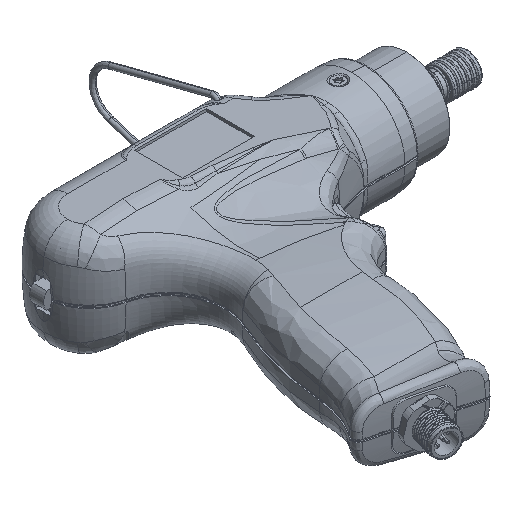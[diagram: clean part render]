
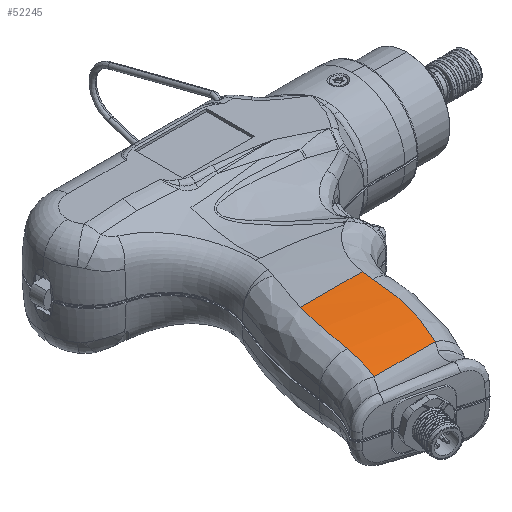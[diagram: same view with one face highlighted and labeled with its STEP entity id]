
A CAD part, isometric view. The second image highlights one B-rep face of the part: STEP entity #52245.
In plain terms, the highlighted cylindrical face has radius 275.277 mm (diameter 550.554 mm), a partial arc.
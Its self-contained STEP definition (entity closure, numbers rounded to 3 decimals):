
#1188 = CARTESIAN_POINT ( 'NONE',  ( -35.995, -49.289, 25.533 ) ) ;
#1485 = CARTESIAN_POINT ( 'NONE',  ( -6.581, -33.228, 26.456 ) ) ;
#6213 = CARTESIAN_POINT ( 'NONE',  ( -7.151, -40.15, 26.172 ) ) ;
#8994 = CARTESIAN_POINT ( 'NONE',  ( -34.285, -36.404, 26.346 ) ) ;
#10917 = CARTESIAN_POINT ( 'NONE',  ( -10.581, -55.8, 24.891 ) ) ;
#17096 = CARTESIAN_POINT ( 'NONE',  ( -6.514, -28.726, 26.546 ) ) ;
#17422 = CARTESIAN_POINT ( 'NONE',  ( -37.594, -58.795, 24.553 ) ) ;
#19787 = B_SPLINE_CURVE_WITH_KNOTS ( 'NONE', 3,
 ( #171097, #131223, #111111, #91132, #71035, #50938, #30889, #10917, #186464, #166440, #146474, #126550, #106396, #86408, #66277, #46248, #26152, #6213, #181749, #161701, #141762, #121804, #101636, #81637, #61535, #41466, #21458, #1485, #176975, #157016 ),
 .UNSPECIFIED., .F., .F.,
 ( 4, 2, 1, 2, 2, 1, 1, 2, 2, 1, 1, 1, 2, 2, 1, 1, 2, 2, 4 ),
 ( 0., 0.125, 0.188, 0.219, 0.25, 0.375, 0.438, 0.469, 0.5, 0.625, 0.688, 0.719, 0.734, 0.75, 0.813, 0.844, 0.859, 0.875, 1. ),
 .UNSPECIFIED. ) ;
#21458 = CARTESIAN_POINT ( 'NONE',  ( -6.67, -34.812, 26.404 ) ) ;
#26152 = CARTESIAN_POINT ( 'NONE',  ( -7.306, -41.382, 26.105 ) ) ;
#28997 = CARTESIAN_POINT ( 'NONE',  ( -34.125, -35.542, 26.379 ) ) ;
#30889 = CARTESIAN_POINT ( 'NONE',  ( -10.691, -56.138, 24.854 ) ) ;
#37081 = CARTESIAN_POINT ( 'NONE',  ( -6.525, -30.34, 26.518 ) ) ;
#37419 = CARTESIAN_POINT ( 'NONE',  ( -37.044, -56.307, 24.835 ) ) ;
#41466 = CARTESIAN_POINT ( 'NONE',  ( -6.681, -34.992, 26.398 ) ) ;
#46248 = CARTESIAN_POINT ( 'NONE',  ( -7.662, -43.837, 25.957 ) ) ;
#49009 = CARTESIAN_POINT ( 'NONE',  ( -33.79, -33.82, 26.439 ) ) ;
#50938 = CARTESIAN_POINT ( 'NONE',  ( -10.912, -56.808, 24.778 ) ) ;
#51364 = VERTEX_POINT ( 'NONE', #142012 ) ;
#52245 = ADVANCED_FACE ( 'NONE', ( #72460 ), #143148, .T. ) ;
#52287 = ORIENTED_EDGE ( 'NONE', *, *, #162142, .T. ) ;
#54190 = ORIENTED_EDGE ( 'NONE', *, *, #123239, .T. ) ;
#57474 = CARTESIAN_POINT ( 'NONE',  ( -37.012, -56.158, 24.851 ) ) ;
#61535 = CARTESIAN_POINT ( 'NONE',  ( -6.704, -35.349, 26.385 ) ) ;
#66148 = VERTEX_POINT ( 'NONE', #1188 ) ;
#66277 = CARTESIAN_POINT ( 'NONE',  ( -8.046, -45.926, 25.807 ) ) ;
#69097 = CARTESIAN_POINT ( 'NONE',  ( -33.478, -32.349, 26.478 ) ) ;
#71035 = CARTESIAN_POINT ( 'NONE',  ( -11.25, -57.81, 24.663 ) ) ;
#72460 = FACE_OUTER_BOUND ( 'NONE', #171510, .T. ) ;
#72975 = EDGE_CURVE ( 'NONE', #98191, #51364, #165753, .T. ) ;
#77583 = CARTESIAN_POINT ( 'NONE',  ( -36.949, -55.862, 24.884 ) ) ;
#81637 = CARTESIAN_POINT ( 'NONE',  ( -6.739, -35.883, 26.366 ) ) ;
#84457 = CARTESIAN_POINT ( 'NONE',  ( -35.995, -49.289, 25.533 ) ) ;
#85555 = VERTEX_POINT ( 'NONE', #137317 ) ;
#86408 = CARTESIAN_POINT ( 'NONE',  ( -8.409, -47.659, 25.67 ) ) ;
#89238 = CARTESIAN_POINT ( 'NONE',  ( -32.821, -29.415, 26.54 ) ) ;
#91132 = CARTESIAN_POINT ( 'NONE',  ( -11.607, -58.804, 24.543 ) ) ;
#97613 = CARTESIAN_POINT ( 'NONE',  ( -36.857, -55.418, 24.933 ) ) ;
#98191 = VERTEX_POINT ( 'NONE', #148333 ) ;
#99303 = EDGE_CURVE ( 'NONE', #85555, #66148, #103700, .T. ) ;
#101636 = CARTESIAN_POINT ( 'NONE',  ( -6.833, -37.132, 26.317 ) ) ;
#103700 = B_SPLINE_CURVE_WITH_KNOTS ( 'NONE', 3,
 ( #149279, #109206, #89238, #69097, #49009, #28997, #8994, #184537, #164546, #144561, #124617, #104470, #84457 ),
 .UNSPECIFIED., .F., .F.,
 ( 4, 2, 1, 1, 1, 2, 2, 4 ),
 ( 0.437, 0.578, 0.648, 0.684, 0.701, 0.71, 0.719, 1. ),
 .UNSPECIFIED. ) ;
#104470 = CARTESIAN_POINT ( 'NONE',  ( -35.663, -45.266, 25.882 ) ) ;
#106396 = CARTESIAN_POINT ( 'NONE',  ( -8.483, -48.001, 25.642 ) ) ;
#107556 = ORIENTED_EDGE ( 'NONE', *, *, #119188, .T. ) ;
#109206 = CARTESIAN_POINT ( 'NONE',  ( -32.337, -27.468, 26.56 ) ) ;
#109529 = B_SPLINE_CURVE_WITH_KNOTS ( 'NONE', 3,
 ( #177664, #157663, #137735, #117701, #97613, #77583, #57474, #37419, #17422, #192978, #172921 ),
 .UNSPECIFIED., .F., .F.,
 ( 4, 1, 1, 1, 2, 2, 4 ),
 ( 0., 0.25, 0.375, 0.437, 0.469, 0.5, 1. ),
 .UNSPECIFIED. ) ;
#111111 = CARTESIAN_POINT ( 'NONE',  ( -12.346, -60.781, 24.297 ) ) ;
#112064 = ORIENTED_EDGE ( 'NONE', *, *, #72975, .T. ) ;
#117701 = CARTESIAN_POINT ( 'NONE',  ( -36.655, -54.379, 25.046 ) ) ;
#119188 = EDGE_CURVE ( 'NONE', #66148, #98191, #109529, .T. ) ;
#120567 = VECTOR ( 'NONE', #125825, 1000. ) ;
#121804 = CARTESIAN_POINT ( 'NONE',  ( -6.934, -38.202, 26.269 ) ) ;
#123239 = EDGE_CURVE ( 'NONE', #188014, #153249, #161398, .T. ) ;
#124617 = CARTESIAN_POINT ( 'NONE',  ( -35.145, -41.257, 26.14 ) ) ;
#125476 = DIRECTION ( 'NONE',  ( 0., 0., 1. ) ) ;
#125825 = DIRECTION ( 'NONE',  ( 1., 0., 0. ) ) ;
#126550 = CARTESIAN_POINT ( 'NONE',  ( -8.636, -48.689, 25.585 ) ) ;
#128485 = EDGE_CURVE ( 'NONE', #153249, #85555, #190350, .T. ) ;
#131223 = CARTESIAN_POINT ( 'NONE',  ( -12.871, -62.086, 24.125 ) ) ;
#137317 = CARTESIAN_POINT ( 'NONE',  ( -31.808, -25.531, 26.56 ) ) ;
#137735 = CARTESIAN_POINT ( 'NONE',  ( -36.304, -52.295, 25.261 ) ) ;
#138140 = AXIS2_PLACEMENT_3D ( 'NONE', #165396, #145407, #125476 ) ;
#140506 = CARTESIAN_POINT ( 'NONE',  ( -6.133, -25.531, 26.56 ) ) ;
#140718 = ORIENTED_EDGE ( 'NONE', *, *, #99303, .T. ) ;
#141762 = CARTESIAN_POINT ( 'NONE',  ( -7.03, -39.095, 26.226 ) ) ;
#142012 = CARTESIAN_POINT ( 'NONE',  ( -13.43, -63.376, 23.946 ) ) ;
#143148 = CYLINDRICAL_SURFACE ( 'NONE', #138140, 275.277 ) ;
#144013 = VECTOR ( 'NONE', #150392, 1000. ) ;
#144561 = CARTESIAN_POINT ( 'NONE',  ( -34.418, -37.143, 26.315 ) ) ;
#145407 = DIRECTION ( 'NONE',  ( -1., 0., 0. ) ) ;
#145767 = CARTESIAN_POINT ( 'NONE',  ( -5.935, -63.376, 23.946 ) ) ;
#146474 = CARTESIAN_POINT ( 'NONE',  ( -8.872, -49.717, 25.497 ) ) ;
#148333 = CARTESIAN_POINT ( 'NONE',  ( -39.103, -63.376, 23.946 ) ) ;
#149279 = CARTESIAN_POINT ( 'NONE',  ( -31.808, -25.531, 26.56 ) ) ;
#150392 = DIRECTION ( 'NONE',  ( -1., 0., 0. ) ) ;
#153249 = VERTEX_POINT ( 'NONE', #140506 ) ;
#157016 = CARTESIAN_POINT ( 'NONE',  ( -6.525, -30.34, 26.518 ) ) ;
#157663 = CARTESIAN_POINT ( 'NONE',  ( -36.094, -50.494, 25.429 ) ) ;
#161398 = B_SPLINE_CURVE_WITH_KNOTS ( 'NONE', 3,
 ( #37081, #17096, #192646, #172587 ),
 .UNSPECIFIED., .F., .F.,
 ( 4, 4 ),
 ( 0., 0.152 ),
 .UNSPECIFIED. ) ;
#161701 = CARTESIAN_POINT ( 'NONE',  ( -7.049, -39.269, 26.217 ) ) ;
#162142 = EDGE_CURVE ( 'NONE', #51364, #188014, #19787, .T. ) ;
#164546 = CARTESIAN_POINT ( 'NONE',  ( -34.396, -37.02, 26.32 ) ) ;
#165396 = CARTESIAN_POINT ( 'NONE',  ( -5.935, -25.531, -248.717 ) ) ;
#165753 = LINE ( 'NONE', #145767, #120567 ) ;
#166440 = CARTESIAN_POINT ( 'NONE',  ( -9.466, -52.104, 25.281 ) ) ;
#168916 = ORIENTED_EDGE ( 'NONE', *, *, #128485, .T. ) ;
#170317 = CARTESIAN_POINT ( 'NONE',  ( -5.935, -25.531, 26.56 ) ) ;
#171097 = CARTESIAN_POINT ( 'NONE',  ( -13.43, -63.376, 23.946 ) ) ;
#171510 = EDGE_LOOP ( 'NONE', ( #54190, #168916, #140718, #107556, #112064, #52287 ) ) ;
#171953 = CARTESIAN_POINT ( 'NONE',  ( -6.525, -30.34, 26.518 ) ) ;
#172587 = CARTESIAN_POINT ( 'NONE',  ( -6.133, -25.531, 26.56 ) ) ;
#172921 = CARTESIAN_POINT ( 'NONE',  ( -39.103, -63.376, 23.946 ) ) ;
#176975 = CARTESIAN_POINT ( 'NONE',  ( -6.536, -31.796, 26.493 ) ) ;
#177664 = CARTESIAN_POINT ( 'NONE',  ( -35.995, -49.289, 25.533 ) ) ;
#181749 = CARTESIAN_POINT ( 'NONE',  ( -7.089, -39.622, 26.199 ) ) ;
#184537 = CARTESIAN_POINT ( 'NONE',  ( -34.352, -36.774, 26.331 ) ) ;
#186464 = CARTESIAN_POINT ( 'NONE',  ( -10.051, -54.127, 25.074 ) ) ;
#188014 = VERTEX_POINT ( 'NONE', #171953 ) ;
#190350 = LINE ( 'NONE', #170317, #144013 ) ;
#192646 = CARTESIAN_POINT ( 'NONE',  ( -6.384, -27.123, 26.56 ) ) ;
#192978 = CARTESIAN_POINT ( 'NONE',  ( -38.269, -61.103, 24.262 ) ) ;
